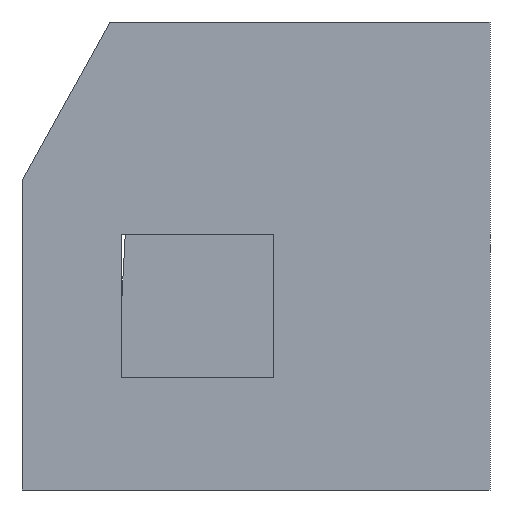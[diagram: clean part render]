
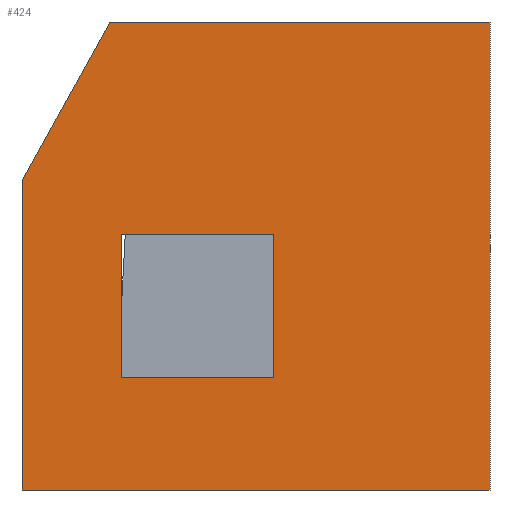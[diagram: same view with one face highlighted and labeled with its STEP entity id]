
A CAD part, front view. The second image highlights one B-rep face of the part: STEP entity #424.
In plain terms, the highlighted planar face has unit normal (0, -1, 0).
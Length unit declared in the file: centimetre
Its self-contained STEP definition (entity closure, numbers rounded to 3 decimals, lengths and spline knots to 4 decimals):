
#2 = LINE ( 'NONE', #400, #138 ) ;
#22 = VERTEX_POINT ( 'NONE', #334 ) ;
#29 = VECTOR ( 'NONE', #353, 100. ) ;
#30 = ORIENTED_EDGE ( 'NONE', *, *, #189, .F. ) ;
#31 = LINE ( 'NONE', #391, #29 ) ;
#37 = VECTOR ( 'NONE', #155, 100. ) ;
#38 = EDGE_LOOP ( 'NONE', ( #388, #305, #146, #43 ) ) ;
#43 = ORIENTED_EDGE ( 'NONE', *, *, #341, .F. ) ;
#46 = VECTOR ( 'NONE', #195, 100. ) ;
#57 = VECTOR ( 'NONE', #128, 100. ) ;
#65 = AXIS2_PLACEMENT_3D ( 'NONE', #91, #247, #406 ) ;
#68 = VERTEX_POINT ( 'NONE', #166 ) ;
#77 = CARTESIAN_POINT ( 'NONE',  ( 212.4557, 0., 546.0305 ) ) ;
#79 = LINE ( 'NONE', #311, #37 ) ;
#80 = EDGE_CURVE ( 'NONE', #275, #237, #174, .T. ) ;
#88 = LINE ( 'NONE', #420, #57 ) ;
#91 = CARTESIAN_POINT ( 'NONE',  ( 0., 0., 1000. ) ) ;
#103 = CARTESIAN_POINT ( 'NONE',  ( 212.4557, 0., 546.0305 ) ) ;
#119 = VERTEX_POINT ( 'NONE', #175 ) ;
#126 = FACE_BOUND ( 'NONE', #38, .T. ) ;
#128 = DIRECTION ( 'NONE',  ( 1., 0., 0. ) ) ;
#138 = VECTOR ( 'NONE', #321, 100. ) ;
#140 = LINE ( 'NONE', #103, #350 ) ;
#146 = ORIENTED_EDGE ( 'NONE', *, *, #464, .F. ) ;
#155 = DIRECTION ( 'NONE',  ( 1., 0., 0. ) ) ;
#160 = ORIENTED_EDGE ( 'NONE', *, *, #260, .T. ) ;
#162 = CARTESIAN_POINT ( 'NONE',  ( 0., 0., 0. ) ) ;
#166 = CARTESIAN_POINT ( 'NONE',  ( 0., 0., 660.9038 ) ) ;
#174 = LINE ( 'NONE', #495, #216 ) ;
#175 = CARTESIAN_POINT ( 'NONE',  ( 187.9577, 0., 1000. ) ) ;
#184 = EDGE_CURVE ( 'NONE', #119, #401, #79, .T. ) ;
#189 = EDGE_CURVE ( 'NONE', #68, #119, #31, .T. ) ;
#192 = EDGE_CURVE ( 'NONE', #401, #210, #268, .T. ) ;
#195 = DIRECTION ( 'NONE',  ( 0., 0., -1. ) ) ;
#196 = LINE ( 'NONE', #365, #522 ) ;
#210 = VERTEX_POINT ( 'NONE', #432 ) ;
#211 = DIRECTION ( 'NONE',  ( 1., 0., 0. ) ) ;
#216 = VECTOR ( 'NONE', #211, 100. ) ;
#221 = VERTEX_POINT ( 'NONE', #77 ) ;
#230 = CARTESIAN_POINT ( 'NONE',  ( 537.4481, 0., 239.5494 ) ) ;
#237 = VERTEX_POINT ( 'NONE', #230 ) ;
#247 = DIRECTION ( 'NONE',  ( 0., 1., 0. ) ) ;
#260 = EDGE_CURVE ( 'NONE', #68, #505, #473, .T. ) ;
#268 = LINE ( 'NONE', #467, #324 ) ;
#275 = VERTEX_POINT ( 'NONE', #395 ) ;
#283 = FACE_OUTER_BOUND ( 'NONE', #352, .T. ) ;
#305 = ORIENTED_EDGE ( 'NONE', *, *, #318, .F. ) ;
#311 = CARTESIAN_POINT ( 'NONE',  ( 0., 0., 1000. ) ) ;
#312 = DIRECTION ( 'NONE',  ( 0., 0., -1. ) ) ;
#318 = EDGE_CURVE ( 'NONE', #221, #275, #196, .T. ) ;
#321 = DIRECTION ( 'NONE',  ( 0., 0., 1. ) ) ;
#324 = VECTOR ( 'NONE', #312, 100. ) ;
#331 = DIRECTION ( 'NONE',  ( -1., 0., 0. ) ) ;
#334 = CARTESIAN_POINT ( 'NONE',  ( 537.4481, 0., 546.0305 ) ) ;
#341 = EDGE_CURVE ( 'NONE', #237, #22, #2, .T. ) ;
#349 = ORIENTED_EDGE ( 'NONE', *, *, #192, .F. ) ;
#350 = VECTOR ( 'NONE', #331, 100. ) ;
#352 = EDGE_LOOP ( 'NONE', ( #421, #30, #160, #486, #349 ) ) ;
#353 = DIRECTION ( 'NONE',  ( 0.485, 0., 0.875 ) ) ;
#365 = CARTESIAN_POINT ( 'NONE',  ( 212.4557, 0., 239.5494 ) ) ;
#376 = DIRECTION ( 'NONE',  ( 0., 0., -1. ) ) ;
#388 = ORIENTED_EDGE ( 'NONE', *, *, #80, .F. ) ;
#391 = CARTESIAN_POINT ( 'NONE',  ( 0., 0., 660.9038 ) ) ;
#395 = CARTESIAN_POINT ( 'NONE',  ( 212.4557, 0., 239.5494 ) ) ;
#400 = CARTESIAN_POINT ( 'NONE',  ( 537.4481, 0., 239.5494 ) ) ;
#401 = VERTEX_POINT ( 'NONE', #402 ) ;
#402 = CARTESIAN_POINT ( 'NONE',  ( 1000., 0., 1000. ) ) ;
#406 = DIRECTION ( 'NONE',  ( 0., 0., 1. ) ) ;
#420 = CARTESIAN_POINT ( 'NONE',  ( 0., 0., 0. ) ) ;
#421 = ORIENTED_EDGE ( 'NONE', *, *, #184, .F. ) ;
#424 = ADVANCED_FACE ( 'NONE', ( #126, #283 ), #448, .F. ) ;
#432 = CARTESIAN_POINT ( 'NONE',  ( 1000., 0., 0. ) ) ;
#448 = PLANE ( 'NONE',  #65 ) ;
#464 = EDGE_CURVE ( 'NONE', #22, #221, #140, .T. ) ;
#467 = CARTESIAN_POINT ( 'NONE',  ( 1000., 0., 1000. ) ) ;
#473 = LINE ( 'NONE', #512, #46 ) ;
#486 = ORIENTED_EDGE ( 'NONE', *, *, #494, .T. ) ;
#494 = EDGE_CURVE ( 'NONE', #505, #210, #88, .T. ) ;
#495 = CARTESIAN_POINT ( 'NONE',  ( 212.4557, 0., 239.5494 ) ) ;
#505 = VERTEX_POINT ( 'NONE', #162 ) ;
#512 = CARTESIAN_POINT ( 'NONE',  ( 0., 0., 1000. ) ) ;
#522 = VECTOR ( 'NONE', #376, 100. ) ;
